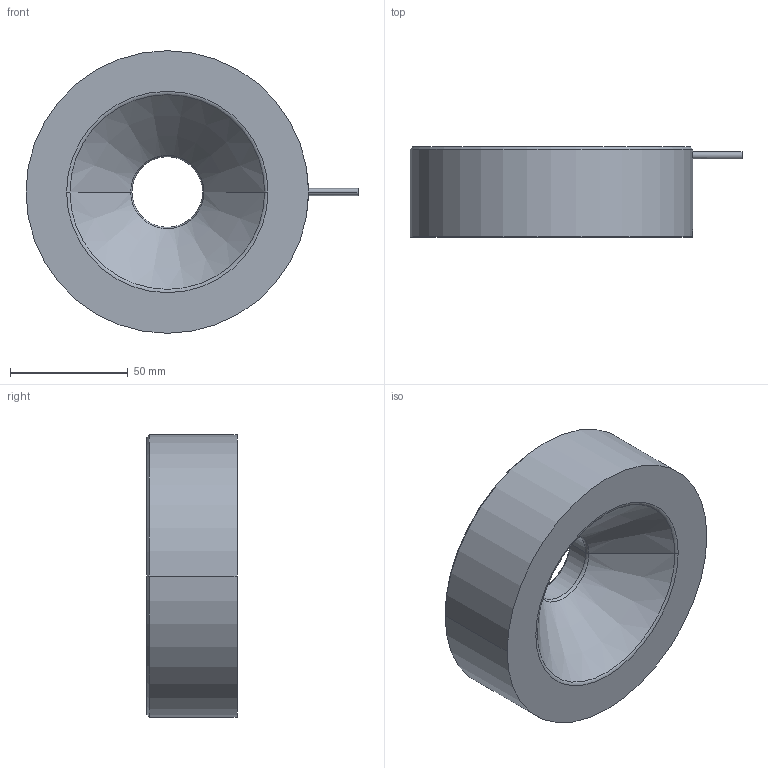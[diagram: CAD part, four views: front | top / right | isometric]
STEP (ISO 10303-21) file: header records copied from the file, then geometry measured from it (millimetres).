
FILE_DESCRIPTION((''),'2;1');
FILE_NAME('MV-LRDS-120-45-W','2019-09-19T',('rs-zhongwm'),(''),'PRO/ENGINEER BY PARAMETRIC TECHNOLOGY CORPORATION, 2010100','PRO/ENGINEER BY PARAMETRIC TECHNOLOGY CORPORATION, 2010100','');
FILE_SCHEMA(('CONFIG_CONTROL_DESIGN'));
Length unit declared in the file: millimetre
Products named in the file (1): MV-LRDS-120-45-W
Bounding box: 140.99 x 38.23 x 120 mm (x, y, z)
Volume: 350517.6 mm3; surface area: 38929.3 mm2
Topology: 1 solids, 5 shells, 47 faces, 111 edges, 66 vertices
Faces by surface type: cylinder 22, cone 14, plane 7, torus 4
Entity records: 1429 total; most frequent: CARTESIAN_POINT 318, DIRECTION 245, ORIENTED_EDGE 190, AXIS2_PLACEMENT_3D 104, EDGE_CURVE 103, VERTEX_POINT 66, EDGE_LOOP 57, CIRCLE 56
